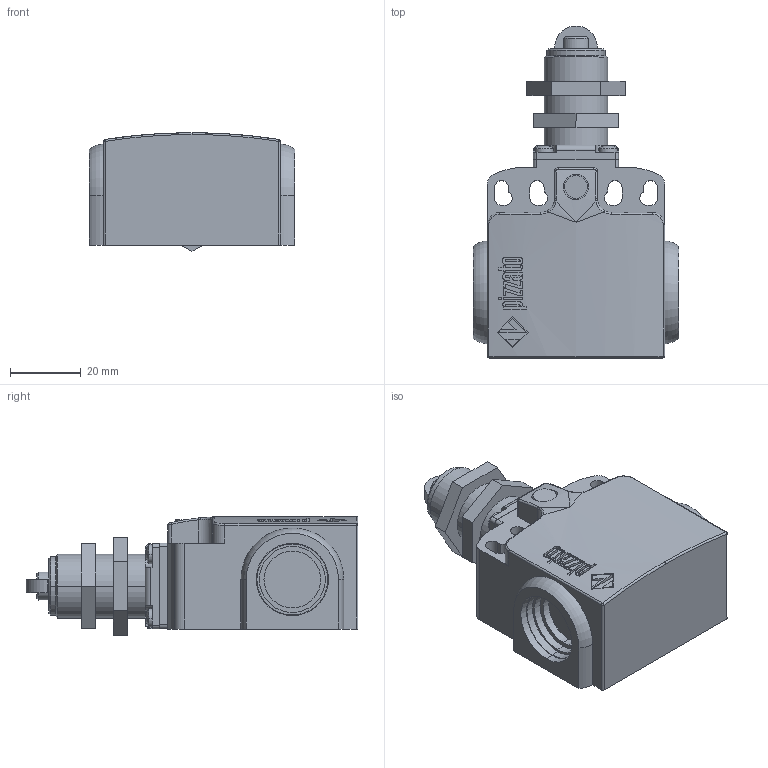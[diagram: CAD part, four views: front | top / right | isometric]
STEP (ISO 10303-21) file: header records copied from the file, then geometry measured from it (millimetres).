
FILE_DESCRIPTION (( 'STEP AP203' ), '1' );
FILE_NAME ('ZF_STEP_FX_x13.STEP', '2024-01-22T12:47:00', ( '' ), ( '' ), 'SwSTEP 2.0', 'SolidWorks 2020', '' );
FILE_SCHEMA (( 'CONFIG_CONTROL_DESIGN' ));
Length unit declared in the file: millimetre
Products named in the file (7): Pizzato_Pistoncino_TE13; Pizzato_Dado_2007_2007; Pizzato_Custodia_FX_3dweb; ZF_STEP_VF_TE13; Pizzato_Supporto_TE13; ZF_STEP_FX_x13
Assembly tree (7 placements, depth 3):
  ZF_STEP_FX_x13
    Pizzato_Custodia_FX_3dweb
      Pizzato_Custodia_FX_3dweb
    ZF_STEP_VF_TE13
      Pizzato_Supporto_TE13
      Pizzato_Dado_2007_2007  x2
      Pizzato_Pistoncino_TE13
Bounding box: 58 x 93.6 x 33.46 mm (x, y, z)
Volume: 89412.6 mm3; surface area: 22061.1 mm2
Topology: 5 solids, 5 shells, 517 faces, 1348 edges, 885 vertices
Faces by surface type: plane 270, bspline 119, cylinder 104, sphere 10, torus 8, cone 6
Entity records: 20414 total; most frequent: CARTESIAN_POINT 7829, ORIENTED_EDGE 2640, DIRECTION 2115, EDGE_CURVE 1320, VERTEX_POINT 869, LINE 793, VECTOR 793, AXIS2_PLACEMENT_3D 661
